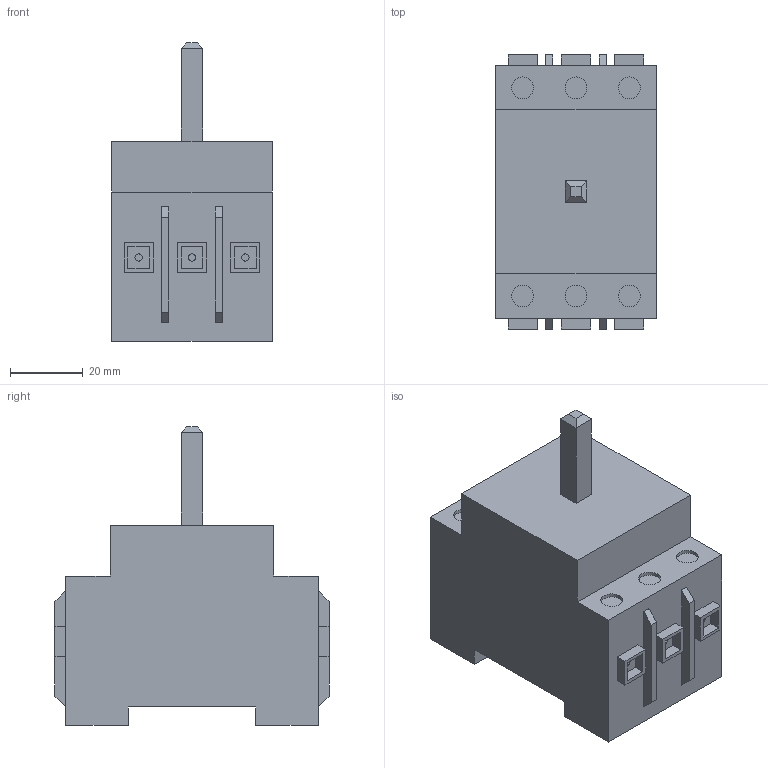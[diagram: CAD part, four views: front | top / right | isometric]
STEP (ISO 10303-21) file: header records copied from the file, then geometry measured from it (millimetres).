
FILE_DESCRIPTION(('STEP AP214'),'1');
FILE_NAME('bloc_nu_022110_ew.stp','2017-05-03T14:46:18',('TraceParts'),('TraceParts S.A.'),'Spatial InterOp 3D',' ',' ');
FILE_SCHEMA(('automotive_design'));
Length unit declared in the file: millimetre
Products named in the file (1): bloc_nu_022110_ew
Bounding box: 44 x 75.4 x 82 mm (x, y, z)
Volume: 147175.8 mm3; surface area: 20483.9 mm2
Topology: 1 solids, 1 shells, 139 faces, 320 edges, 212 vertices
Faces by surface type: plane 115, cylinder 24
Entity records: 4050 total; most frequent: CARTESIAN_POINT 672, DIRECTION 648, ORIENTED_EDGE 640, EDGE_CURVE 320, LINE 272, VECTOR 272, VERTEX_POINT 212, AXIS2_PLACEMENT_3D 188
